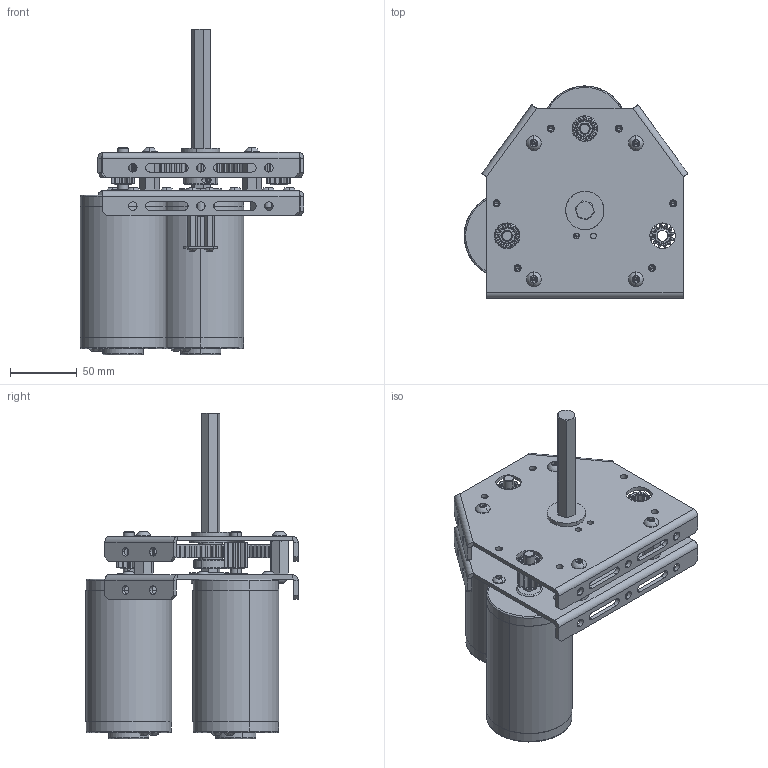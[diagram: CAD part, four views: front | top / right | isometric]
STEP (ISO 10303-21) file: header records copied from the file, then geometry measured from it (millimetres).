
FILE_DESCRIPTION (( 'STEP AP203' ), '1' );
FILE_NAME ('217-2752.20121217.STEP', '2012-12-17T15:56:35', ( 'svradm' ), ( 'Microsoft' ), 'SwSTEP 2.0', 'SolidWorks 2012', '' );
FILE_SCHEMA (( 'CONFIG_CONTROL_DESIGN' ));
Length unit declared in the file: inch
Products named in the file (16): 217-2752.20121217; 217-2717-001_84t; SBS1_SBS0832-0500SS; 217-2428-005 Rev1; 217-2745-002 Rev1; 217-2614-002_98430A132; SBS1_SBS2520-0500SS; 217-2617-002 Rev1_91780A359; 217-2737 Rev1; 217-2614-001_12t; SBS1_SBS1032-0500ZC; 217-2454-004 Rev1; 217-2734; 217-2731; 217-2000 - CIM Motor; 217-2752-001 Rev1
Assembly tree (43 placements, depth 2):
  217-2752.20121217
    217-2752-001 Rev1  x2
    217-2000 - CIM Motor  x2
    217-2731
    217-2734
    217-2454-004 Rev1
    SBS1_SBS1032-0500ZC  x6
    217-2614-001_12t  x3
    217-2737 Rev1
    217-2617-002 Rev1_91780A359  x4
    SBS1_SBS2520-0500SS  x8
    217-2614-002_98430A132  x6
    217-2745-002 Rev1
    217-2428-005 Rev1  x2
    SBS1_SBS0832-0500SS  x4
    217-2717-001_84t
Bounding box: 166.88 x 158.39 x 243.24 mm (x, y, z)
Volume: 1019707.9 mm3; surface area: 221536.5 mm2
Topology: 44 solids, 44 shells, 1904 faces, 4980 edges, 3192 vertices
Faces by surface type: cylinder 887, plane 585, cone 254, bspline 142, sphere 36
Entity records: 59569 total; most frequent: CARTESIAN_POINT 36816, ORIENTED_EDGE 4436, DIRECTION 3988, EDGE_CURVE 2218, AXIS2_PLACEMENT_3D 1534, VERTEX_POINT 1445, EDGE_LOOP 965, LINE 920
